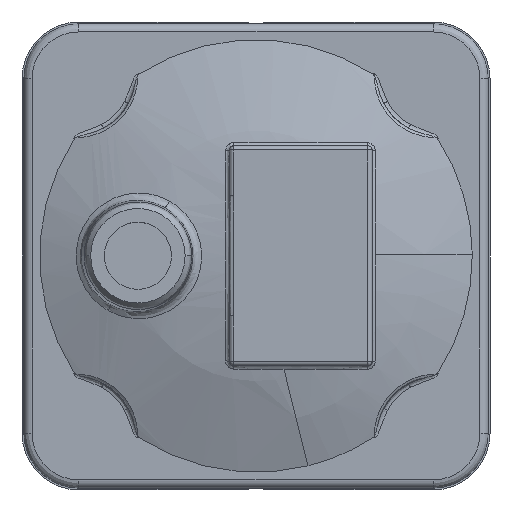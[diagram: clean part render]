
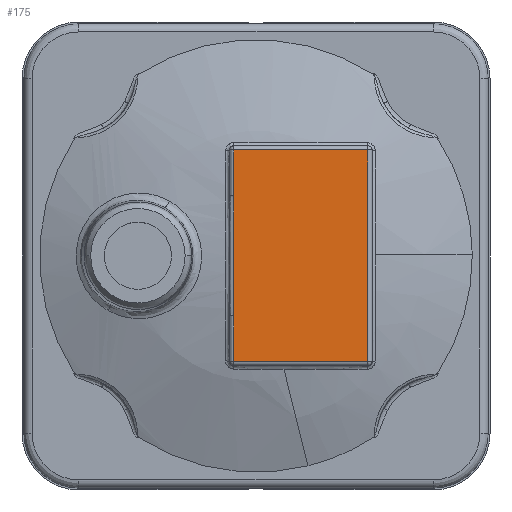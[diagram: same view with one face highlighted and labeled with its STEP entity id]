
A CAD part, top view. The second image highlights one B-rep face of the part: STEP entity #175.
In plain terms, the highlighted planar face has unit normal (0, 0, 1).
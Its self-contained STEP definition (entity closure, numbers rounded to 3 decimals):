
#175=ADVANCED_FACE('',(#1099),#1098,.T.);
#1098=PLANE('',#7817);
#1099=FACE_OUTER_BOUND('',#7818,.T.);
#7814=CARTESIAN_POINT('',(-8.981,-31.2,22.6));
#7815=DIRECTION('',(0.,0.,1.));
#7816=DIRECTION('',(1.,0.,0.));
#7817=AXIS2_PLACEMENT_3D('',#7814,#7815,#7816);
#7818=EDGE_LOOP('',(#22035,#22036,#22037,#22038,#22039,#22040));
#22035=ORIENTED_EDGE('',*,*,#23562,.T.);
#22036=ORIENTED_EDGE('',*,*,#23561,.T.);
#22037=ORIENTED_EDGE('',*,*,#23564,.T.);
#22038=ORIENTED_EDGE('',*,*,#23568,.T.);
#22039=ORIENTED_EDGE('',*,*,#23625,.T.);
#22040=ORIENTED_EDGE('',*,*,#23563,.T.);
#23561=EDGE_CURVE('',#24953,#24890,#24966,.T.);
#23562=EDGE_CURVE('',#24934,#24953,#24972,.T.);
#23563=EDGE_CURVE('',#24915,#24934,#24978,.T.);
#23564=EDGE_CURVE('',#24890,#24984,#24985,.T.);
#23568=EDGE_CURVE('',#24984,#25003,#25010,.T.);
#23625=EDGE_CURVE('',#25003,#24915,#25371,.T.);
#24890=VERTEX_POINT('',#30509);
#24915=VERTEX_POINT('',#30526);
#24934=VERTEX_POINT('',#30539);
#24953=VERTEX_POINT('',#30552);
#24966=LINE('',#30561,#30562);
#24972=LINE('',#30564,#30565);
#24978=LINE('',#30567,#30568);
#24984=VERTEX_POINT('',#30570);
#24985=LINE('',#30571,#30572);
#25003=VERTEX_POINT('',#30588);
#25010=(BOUNDED_CURVE() B_SPLINE_CURVE(3,(#30593,#30594,#30595,#30596,#30597,#30598,#30599,#30600,#30601,#30602),.UNSPECIFIED.,.F.,.F.) B_SPLINE_CURVE_WITH_KNOTS((4,2,2,2,4),(0.,0.007,0.015,0.022,0.029),.UNSPECIFIED.) CURVE() GEOMETRIC_REPRESENTATION_ITEM() RATIONAL_B_SPLINE_CURVE((1.,1.,1.,1.,1.,1.,1.,1.,1.,1.)) REPRESENTATION_ITEM('') );
#25371=LINE('',#31063,#31064);
#30509=CARTESIAN_POINT('',(-5.5,26.,22.6));
#30526=CARTESIAN_POINT('',(-5.5,-26.,22.6));
#30539=CARTESIAN_POINT('',(27.5,-26.,22.6));
#30552=CARTESIAN_POINT('',(27.5,26.,22.6));
#30561=CARTESIAN_POINT('',(27.5,26.,22.6));
#30562=VECTOR('',#30563,33.);
#30563=DIRECTION('',(-1.,0.,0.));
#30564=CARTESIAN_POINT('',(27.5,-26.,22.6));
#30565=VECTOR('',#30566,52.);
#30566=DIRECTION('',(0.,1.,0.));
#30567=CARTESIAN_POINT('',(-5.5,-26.,22.6));
#30568=VECTOR('',#30569,33.);
#30569=DIRECTION('',(1.,0.,0.));
#30570=CARTESIAN_POINT('',(-5.5,14.722,22.6));
#30571=CARTESIAN_POINT('',(-5.5,26.,22.6));
#30572=VECTOR('',#30573,11.278);
#30573=DIRECTION('',(0.,-1.,0.));
#30588=CARTESIAN_POINT('',(-5.5,-14.722,22.6));
#30593=CARTESIAN_POINT('',(-5.5,14.722,22.6));
#30594=CARTESIAN_POINT('',(-5.5,12.268,22.6));
#30595=CARTESIAN_POINT('',(-5.549,9.814,22.6));
#30596=CARTESIAN_POINT('',(-5.632,4.907,22.6));
#30597=CARTESIAN_POINT('',(-5.665,2.453,22.6));
#30598=CARTESIAN_POINT('',(-5.665,-2.455,22.6));
#30599=CARTESIAN_POINT('',(-5.632,-4.908,22.6));
#30600=CARTESIAN_POINT('',(-5.549,-9.815,22.6));
#30601=CARTESIAN_POINT('',(-5.5,-12.269,22.6));
#30602=CARTESIAN_POINT('',(-5.5,-14.722,22.6));
#31063=CARTESIAN_POINT('',(-5.5,-14.722,22.6));
#31064=VECTOR('',#31065,11.278);
#31065=DIRECTION('',(0.,-1.,0.));
